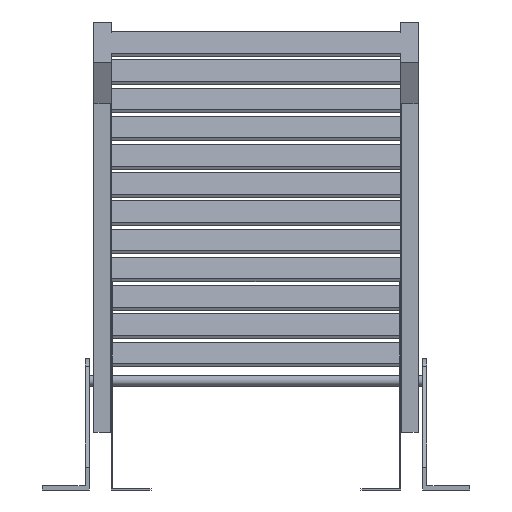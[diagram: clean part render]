
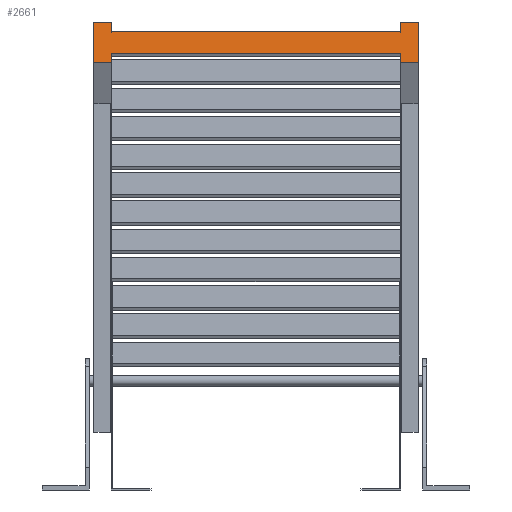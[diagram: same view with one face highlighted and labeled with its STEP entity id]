
A CAD part, front view. The second image highlights one B-rep face of the part: STEP entity #2661.
In plain terms, the highlighted planar face has unit normal (0, -0.99, 0.139).
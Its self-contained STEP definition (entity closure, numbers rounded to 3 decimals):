
#945=DIRECTION('',(0.,0.139,0.99));
#946=VECTOR('',#945,13.5);
#947=CARTESIAN_POINT('',(-200.,-2950.175,632.93));
#948=LINE('',#947,#946);
#949=DIRECTION('',(0.,-0.139,-0.99));
#950=VECTOR('',#949,13.5);
#951=CARTESIAN_POINT('',(200.,-2948.296,646.298));
#952=LINE('',#951,#950);
#953=DIRECTION('',(-1.,0.,0.));
#954=VECTOR('',#953,25.);
#955=CARTESIAN_POINT('',(225.,-2948.296,646.298));
#956=LINE('',#955,#954);
#957=DIRECTION('',(0.,0.139,0.99));
#958=VECTOR('',#957,57.);
#959=CARTESIAN_POINT('',(225.,-2956.229,589.853));
#960=LINE('',#959,#958);
#961=DIRECTION('',(1.,0.,0.));
#962=VECTOR('',#961,25.);
#963=CARTESIAN_POINT('',(200.,-2956.229,589.853));
#964=LINE('',#963,#962);
#965=DIRECTION('',(0.,-0.139,-0.99));
#966=VECTOR('',#965,13.5);
#967=CARTESIAN_POINT('',(200.,-2954.35,603.222));
#968=LINE('',#967,#966);
#969=DIRECTION('',(0.,0.139,0.99));
#970=VECTOR('',#969,13.5);
#971=CARTESIAN_POINT('',(-200.,-2956.229,589.853));
#972=LINE('',#971,#970);
#973=DIRECTION('',(1.,0.,0.));
#974=VECTOR('',#973,25.);
#975=CARTESIAN_POINT('',(-225.,-2956.229,589.853));
#976=LINE('',#975,#974);
#977=DIRECTION('',(0.,-0.139,-0.99));
#978=VECTOR('',#977,57.);
#979=CARTESIAN_POINT('',(-225.,-2948.296,646.298));
#980=LINE('',#979,#978);
#981=DIRECTION('',(-1.,0.,0.));
#982=VECTOR('',#981,25.);
#983=CARTESIAN_POINT('',(-200.,-2948.296,646.298));
#984=LINE('',#983,#982);
#989=DIRECTION('',(1.,0.,0.));
#990=VECTOR('',#989,400.);
#991=CARTESIAN_POINT('',(-200.,-2950.175,632.93));
#992=LINE('',#991,#990);
#993=DIRECTION('',(1.,0.,0.));
#994=VECTOR('',#993,400.);
#995=CARTESIAN_POINT('',(-200.,-2954.35,603.222));
#996=LINE('',#995,#994);
#1097=CARTESIAN_POINT('',(-200.,-2948.296,646.298));
#1098=CARTESIAN_POINT('',(-225.,-2948.296,646.298));
#1099=VERTEX_POINT('',#1097);
#1100=VERTEX_POINT('',#1098);
#1101=CARTESIAN_POINT('',(-225.,-2956.229,589.853));
#1102=CARTESIAN_POINT('',(-200.,-2956.229,589.853));
#1103=VERTEX_POINT('',#1101);
#1104=VERTEX_POINT('',#1102);
#1105=CARTESIAN_POINT('',(225.,-2956.229,589.853));
#1106=CARTESIAN_POINT('',(225.,-2948.296,646.298));
#1107=VERTEX_POINT('',#1105);
#1108=VERTEX_POINT('',#1106);
#1109=CARTESIAN_POINT('',(200.,-2956.229,589.853));
#1110=VERTEX_POINT('',#1109);
#1111=CARTESIAN_POINT('',(200.,-2948.296,646.298));
#1112=VERTEX_POINT('',#1111);
#1285=CARTESIAN_POINT('',(-200.,-2954.35,603.222));
#1287=VERTEX_POINT('',#1285);
#1289=CARTESIAN_POINT('',(-200.,-2950.175,632.93));
#1291=VERTEX_POINT('',#1289);
#1293=CARTESIAN_POINT('',(200.,-2954.35,603.222));
#1295=VERTEX_POINT('',#1293);
#1297=CARTESIAN_POINT('',(200.,-2950.175,632.93));
#1299=VERTEX_POINT('',#1297);
#2636=CARTESIAN_POINT('',(0.,-2980.262,418.848));
#2637=DIRECTION('',(0.,0.99,-0.139));
#2638=DIRECTION('',(1.,0.,0.));
#2639=AXIS2_PLACEMENT_3D('',#2636,#2637,#2638);
#2640=PLANE('',#2639);
#2641=ORIENTED_EDGE('',*,*,#1444,.F.);
#2643=ORIENTED_EDGE('',*,*,#2642,.T.);
#2644=ORIENTED_EDGE('',*,*,#1627,.F.);
#2646=ORIENTED_EDGE('',*,*,#2645,.F.);
#2648=ORIENTED_EDGE('',*,*,#2647,.F.);
#2650=ORIENTED_EDGE('',*,*,#2649,.F.);
#2651=ORIENTED_EDGE('',*,*,#1635,.F.);
#2653=ORIENTED_EDGE('',*,*,#2652,.F.);
#2654=ORIENTED_EDGE('',*,*,#1436,.F.);
#2655=ORIENTED_EDGE('',*,*,#2508,.F.);
#2657=ORIENTED_EDGE('',*,*,#2656,.F.);
#2658=ORIENTED_EDGE('',*,*,#2629,.F.);
#2659=EDGE_LOOP('',(#2641,#2643,#2644,#2646,#2648,#2650,#2651,#2653,#2654,#2655,
#2657,#2658));
#2660=FACE_OUTER_BOUND('',#2659,.F.);
#1436=EDGE_CURVE('',#1104,#1287,#972,.T.);
#1444=EDGE_CURVE('',#1291,#1099,#948,.T.);
#1627=EDGE_CURVE('',#1112,#1299,#952,.T.);
#1635=EDGE_CURVE('',#1295,#1110,#968,.T.);
#2508=EDGE_CURVE('',#1103,#1104,#976,.T.);
#2629=EDGE_CURVE('',#1099,#1100,#984,.T.);
#2642=EDGE_CURVE('',#1291,#1299,#992,.T.);
#2645=EDGE_CURVE('',#1108,#1112,#956,.T.);
#2647=EDGE_CURVE('',#1107,#1108,#960,.T.);
#2649=EDGE_CURVE('',#1110,#1107,#964,.T.);
#2652=EDGE_CURVE('',#1287,#1295,#996,.T.);
#2656=EDGE_CURVE('',#1100,#1103,#980,.T.);
#2661=ADVANCED_FACE('',(#2660),#2640,.F.);
